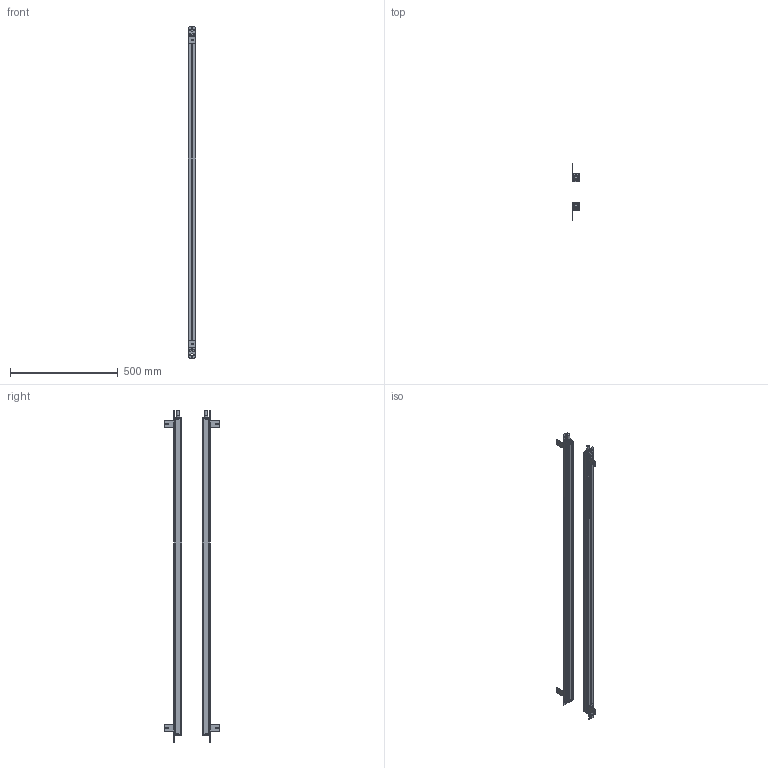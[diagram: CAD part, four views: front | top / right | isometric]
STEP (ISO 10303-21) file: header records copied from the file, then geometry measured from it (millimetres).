
FILE_DESCRIPTION(/* description */ (''),/* implementation_level */ '2;1');
FILE_NAME(/* name */ '3640_35X35.stp',/* time_stamp */ '2023-09-18T16:00:10+08:00',/* author */ (''),/* organization */ (''),/* preprocessor_version */ 'ST-DEVELOPER v16.7',/* originating_system */ 'SIEMENS PLM Software NX 12.0',/* authorisation */ '');
FILE_SCHEMA (('AP203_CONFIGURATION_CONTROLLED_3D_DESIGN_OF_MECHANICAL_PARTS_AND_ASSEMBLIES_MIM_LF { 1 0 10303 403 2 1 2}'));
Length unit declared in the file: millimetre
Products named in the file (1): 3640_35X35_stp
Bounding box: 35.41 x 258.01 x 1541.6 mm (x, y, z)
Volume: 1420468.1 mm3; surface area: 1065143.2 mm2
Topology: 28 solids, 28 shells, 1182 faces, 3360 edges, 2260 vertices
Faces by surface type: plane 658, cylinder 464, cone 60
Full cylindrical faces by diameter (mm): 3.2 x8, 6 x24, 13 x2, 14.4 x2, 15 x2
Entity records: 39055 total; most frequent: DIRECTION 6832, CARTESIAN_POINT 6745, ORIENTED_EDGE 6612, EDGE_CURVE 3306, AXIS2_PLACEMENT_3D 2347, VERTEX_POINT 2244, LINE 2138, VECTOR 2138
